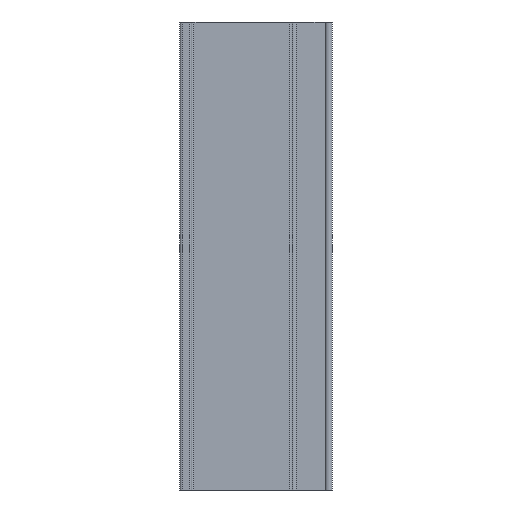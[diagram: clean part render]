
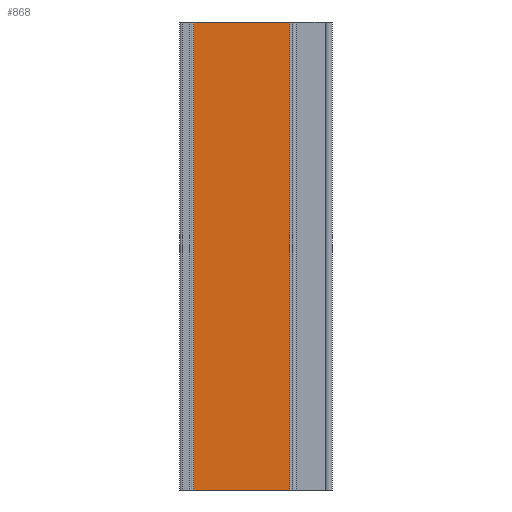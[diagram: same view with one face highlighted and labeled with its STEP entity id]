
A CAD part, left-side view. The second image highlights one B-rep face of the part: STEP entity #868.
In plain terms, the highlighted planar face has unit normal (-1, 0, 0).
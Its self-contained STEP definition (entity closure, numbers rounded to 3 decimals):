
#73=CARTESIAN_POINT('',(-4.,38.,200.0));
#74=VERTEX_POINT('',#73);
#92=CARTESIAN_POINT('',(-4.,38.,0.0));
#93=VERTEX_POINT('',#92);
#101=CARTESIAN_POINT('',(-4.,38.,0.0));
#102=DIRECTION('',(0.0,0.0,1.0));
#103=VECTOR('',#102,200.0);
#104=LINE('',#101,#103);
#105=EDGE_CURVE('',#93,#74,#104,.T.);
#819=CARTESIAN_POINT('',(-4.,-3.,200.0));
#820=VERTEX_POINT('',#819);
#828=CARTESIAN_POINT('',(-4.,-3.,0.0));
#829=VERTEX_POINT('',#828);
#830=CARTESIAN_POINT('',(-4.,-3.,0.0));
#831=DIRECTION('',(0.0,0.0,1.0));
#832=VECTOR('',#831,200.0);
#833=LINE('',#830,#832);
#834=EDGE_CURVE('',#829,#820,#833,.T.);
#847=CARTESIAN_POINT('',(-4.,-3.,0.0));
#848=DIRECTION('',(-1.0,0.0,0.0));
#849=DIRECTION('',(0.0,0.0,1.0));
#850=AXIS2_PLACEMENT_3D('',#847,#848,#849);
#851=PLANE('',#850);
#852=CARTESIAN_POINT('',(-4.,-3.,200.0));
#853=DIRECTION('',(0.0,1.0,0.0));
#854=VECTOR('',#853,41.);
#855=LINE('',#852,#854);
#856=EDGE_CURVE('',#820,#74,#855,.T.);
#857=ORIENTED_EDGE('',*,*,#856,.T.);
#858=ORIENTED_EDGE('',*,*,#105,.F.);
#859=CARTESIAN_POINT('',(-4.,38.,0.0));
#860=DIRECTION('',(0.0,-1.0,0.0));
#861=VECTOR('',#860,41.);
#862=LINE('',#859,#861);
#863=EDGE_CURVE('',#93,#829,#862,.T.);
#864=ORIENTED_EDGE('',*,*,#863,.T.);
#865=ORIENTED_EDGE('',*,*,#834,.T.);
#866=EDGE_LOOP('',(#857,#858,#864,#865));
#867=FACE_OUTER_BOUND('',#866,.T.);
#868=ADVANCED_FACE('',(#867),#851,.T.);
